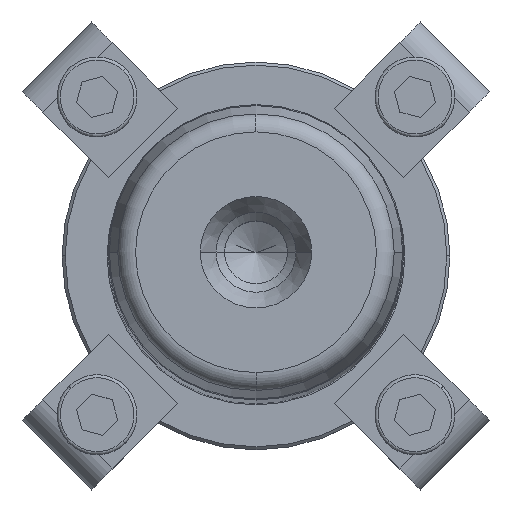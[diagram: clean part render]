
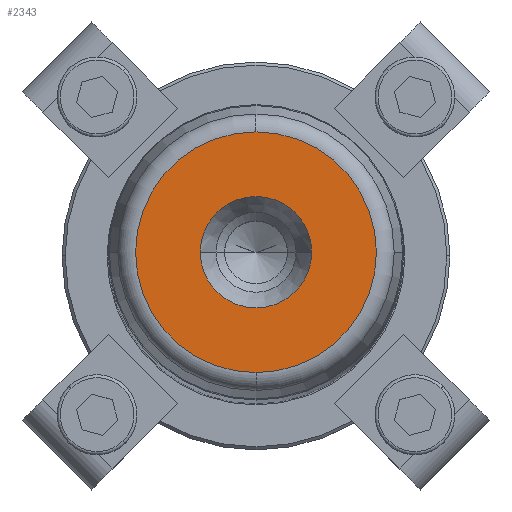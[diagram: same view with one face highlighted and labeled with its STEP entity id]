
A CAD part, top view. The second image highlights one B-rep face of the part: STEP entity #2343.
In plain terms, the highlighted planar face has unit normal (0, 0, 1).
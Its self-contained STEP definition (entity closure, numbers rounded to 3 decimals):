
#431=CARTESIAN_POINT('',(9.05,0.,355.0));
#432=VERTEX_POINT('',#431);
#439=CARTESIAN_POINT('',(-9.05,0.,355.0));
#440=VERTEX_POINT('',#439);
#441=CARTESIAN_POINT('',(0.0,0.,355.0));
#442=DIRECTION('',(0.0,0.0,1.0));
#443=DIRECTION('',(1.0,0.0,0.0));
#444=AXIS2_PLACEMENT_3D('',#441,#442,#443);
#445=CIRCLE('',#444,9.05);
#446=EDGE_CURVE('',#432,#440,#445,.T.);
#463=CARTESIAN_POINT('',(0.0,-19.554,355.0));
#464=VERTEX_POINT('',#463);
#474=CARTESIAN_POINT('',(0.,19.554,355.0));
#475=VERTEX_POINT('',#474);
#476=CARTESIAN_POINT('',(0.0,0.,355.0));
#477=DIRECTION('',(0.0,0.0,1.0));
#478=DIRECTION('',(1.0,0.0,0.0));
#479=AXIS2_PLACEMENT_3D('',#476,#477,#478);
#480=CIRCLE('',#479,19.554);
#481=EDGE_CURVE('',#475,#464,#480,.T.);
#2304=CARTESIAN_POINT('',(19.554,0.,355.0));
#2305=VERTEX_POINT('',#2304);
#2306=CARTESIAN_POINT('',(0.0,0.,355.0));
#2307=DIRECTION('',(0.0,0.0,1.0));
#2308=DIRECTION('',(1.0,0.0,0.0));
#2309=AXIS2_PLACEMENT_3D('',#2306,#2307,#2308);
#2310=CIRCLE('',#2309,19.554);
#2311=EDGE_CURVE('',#2305,#475,#2310,.T.);
#2313=CARTESIAN_POINT('',(0.0,0.,355.0));
#2314=DIRECTION('',(0.0,0.0,1.0));
#2315=DIRECTION('',(1.0,0.0,0.0));
#2316=AXIS2_PLACEMENT_3D('',#2313,#2314,#2315);
#2317=CIRCLE('',#2316,19.554);
#2318=EDGE_CURVE('',#464,#2305,#2317,.T.);
#2323=CARTESIAN_POINT('',(14.302,0.,355.0));
#2324=DIRECTION('',(0.0,0.0,1.0));
#2325=DIRECTION('',(0.0,-1.0,0.0));
#2326=AXIS2_PLACEMENT_3D('',#2323,#2324,#2325);
#2327=PLANE('',#2326);
#2328=ORIENTED_EDGE('',*,*,#2311,.T.);
#2329=ORIENTED_EDGE('',*,*,#481,.T.);
#2330=ORIENTED_EDGE('',*,*,#2318,.T.);
#2331=EDGE_LOOP('',(#2328,#2329,#2330));
#2332=FACE_OUTER_BOUND('',#2331,.T.);
#2333=ORIENTED_EDGE('',*,*,#446,.F.);
#2334=CARTESIAN_POINT('',(0.0,0.,355.0));
#2335=DIRECTION('',(0.0,0.0,1.0));
#2336=DIRECTION('',(1.0,0.0,0.0));
#2337=AXIS2_PLACEMENT_3D('',#2334,#2335,#2336);
#2338=CIRCLE('',#2337,9.05);
#2339=EDGE_CURVE('',#440,#432,#2338,.T.);
#2340=ORIENTED_EDGE('',*,*,#2339,.F.);
#2341=EDGE_LOOP('',(#2333,#2340));
#2342=FACE_BOUND('',#2341,.T.);
#2343=ADVANCED_FACE('',(#2332,#2342),#2327,.T.);
